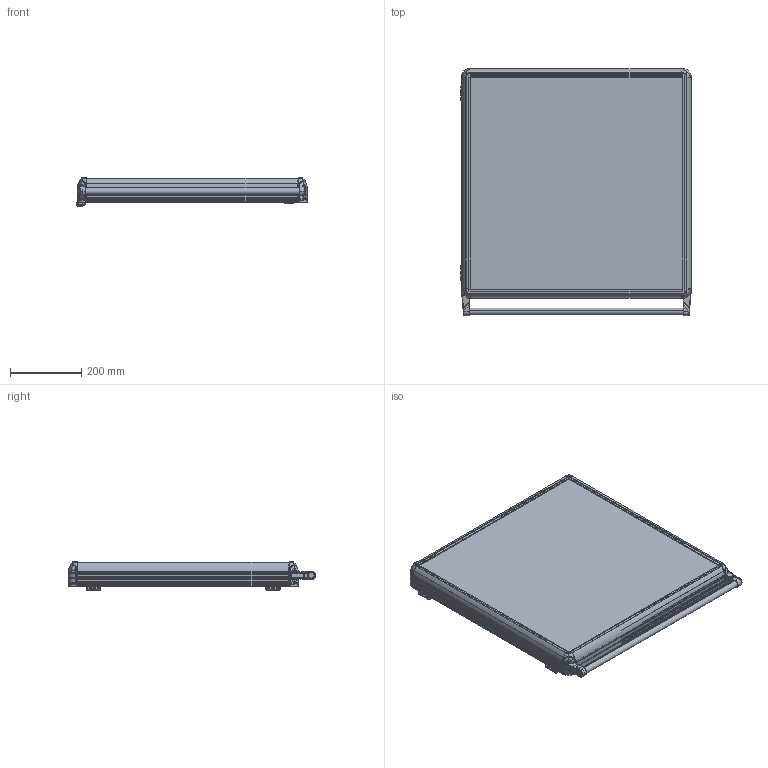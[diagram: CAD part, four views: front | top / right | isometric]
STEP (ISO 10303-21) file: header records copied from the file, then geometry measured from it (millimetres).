
FILE_DESCRIPTION (( 'STEP AP214' ), '1' );
FILE_NAME ('6000-0116.STEP', '2022-08-31T13:07:28', ( '' ), ( '' ), 'SwSTEP 2.0', 'SolidWorks 2022', '' );
FILE_SCHEMA (( 'AUTOMOTIVE_DESIGN' ));
Length unit declared in the file: millimetre
Products named in the file (8): boru_625; HPECO-060-001-495_595; ARKA_KAPAK_600X600; 600X600; ECO6000-0100(SAÐ); ECO6000-0100(SOL); 6000-0116; ECO6000-0000
Assembly tree (11 placements, depth 2):
  6000-0116
    600X600
    ARKA_KAPAK_600X600
    boru_625
    ECO6000-0100(SAÐ)
    ECO6000-0000  x2
    ECO6000-0100(SOL)
    HPECO-060-001-495_595  x4
Bounding box: 649.03 x 695.81 x 79.15 mm (x, y, z)
Volume: 3228479.2 mm3; surface area: 2521434.7 mm2
Topology: 19 solids, 79 shells, 5637 faces, 15173 edges, 9469 vertices
Faces by surface type: plane 2213, cylinder 1555, bspline 1020, cone 527, torus 276, sphere 46
Entity records: 210769 total; most frequent: CARTESIAN_POINT 58716, ORIENTED_EDGE 24268, DIRECTION 19708, EDGE_CURVE 12134, VERTEX_POINT 7572, AXIS2_PLACEMENT_3D 7184, LINE 5340, VECTOR 5340
